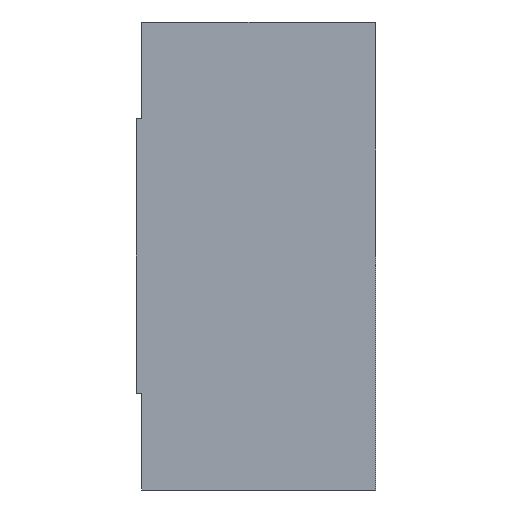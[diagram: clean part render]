
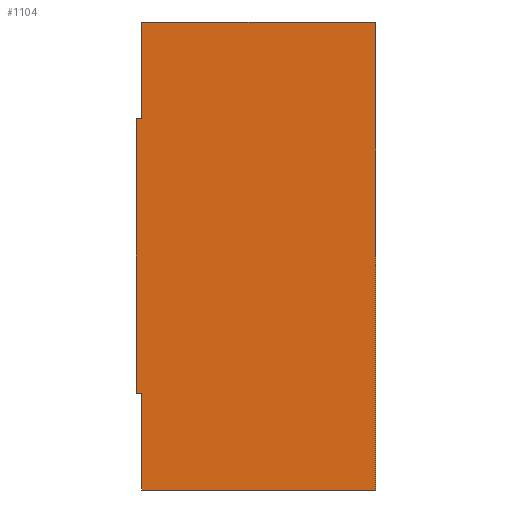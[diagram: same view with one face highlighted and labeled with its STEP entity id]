
A CAD part, left-side view. The second image highlights one B-rep face of the part: STEP entity #1104.
In plain terms, the highlighted planar face has unit normal (-1, 0, 0).
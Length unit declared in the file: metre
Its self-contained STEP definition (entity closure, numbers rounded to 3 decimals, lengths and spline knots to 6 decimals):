
#216=ORIENTED_EDGE('',*,*,#392,.T.);
#217=ORIENTED_EDGE('',*,*,#446,.F.);
#218=ORIENTED_EDGE('',*,*,#440,.T.);
#219=ORIENTED_EDGE('',*,*,#436,.T.);
#220=ORIENTED_EDGE('',*,*,#445,.F.);
#221=ORIENTED_EDGE('',*,*,#447,.T.);
#222=ORIENTED_EDGE('',*,*,#395,.F.);
#223=ORIENTED_EDGE('',*,*,#448,.F.);
#392=EDGE_CURVE('',#519,#521,#640,.T.);
#395=EDGE_CURVE('',#524,#525,#643,.T.);
#436=EDGE_CURVE('',#555,#556,#675,.T.);
#440=EDGE_CURVE('',#559,#555,#679,.T.);
#445=EDGE_CURVE('',#562,#556,#684,.T.);
#446=EDGE_CURVE('',#559,#521,#685,.T.);
#447=EDGE_CURVE('',#562,#525,#686,.T.);
#448=EDGE_CURVE('',#519,#524,#687,.T.);
#519=VERTEX_POINT('',#1655);
#521=VERTEX_POINT('',#1659);
#524=VERTEX_POINT('',#1666);
#525=VERTEX_POINT('',#1668);
#555=VERTEX_POINT('',#1755);
#556=VERTEX_POINT('',#1756);
#559=VERTEX_POINT('',#1764);
#562=VERTEX_POINT('',#1772);
#640=LINE('',#1660,#714);
#643=LINE('',#1667,#717);
#675=LINE('',#1754,#749);
#679=LINE('',#1763,#753);
#684=LINE('',#1773,#758);
#685=LINE('',#1775,#759);
#686=LINE('',#1776,#760);
#687=LINE('',#1777,#761);
#714=VECTOR('',#1316,1.);
#717=VECTOR('',#1321,1.);
#749=VECTOR('',#1403,1.);
#753=VECTOR('',#1409,1.);
#758=VECTOR('',#1416,1.);
#759=VECTOR('',#1419,1.);
#760=VECTOR('',#1420,1.);
#761=VECTOR('',#1421,1.);
#810=EDGE_LOOP('',(#216,#217,#218,#219,#220,#221,#222,#223));
#934=FACE_BOUND('',#810,.T.);
#1071=PLANE('',#1205);
#1104=ADVANCED_FACE('',(#934),#1071,.F.);
#1205=AXIS2_PLACEMENT_3D('',#1774,#1417,#1418);
#1316=DIRECTION('',(0.,-1.,0.));
#1321=DIRECTION('',(0.,-1.,0.));
#1403=DIRECTION('',(0.,0.,1.));
#1409=DIRECTION('',(0.,-1.,0.));
#1416=DIRECTION('',(0.,-1.,0.));
#1417=DIRECTION('',(1.,0.,0.));
#1418=DIRECTION('',(0.,0.,-1.));
#1419=DIRECTION('',(0.,0.,1.));
#1420=DIRECTION('',(0.,0.,-1.));
#1421=DIRECTION('',(0.,0.,1.));
#1655=CARTESIAN_POINT('',(0.,0.0235,-0.0365));
#1659=CARTESIAN_POINT('',(0.,0.023,-0.0365));
#1660=CARTESIAN_POINT('',(0.,0.0235,-0.0365));
#1666=CARTESIAN_POINT('',(0.,0.0235,-0.0095));
#1667=CARTESIAN_POINT('',(0.,0.0235,-0.0095));
#1668=CARTESIAN_POINT('',(0.,0.023,-0.0095));
#1754=CARTESIAN_POINT('',(0.,0.,0.));
#1755=CARTESIAN_POINT('',(0.,0.,-0.046));
#1756=CARTESIAN_POINT('',(0.,0.,0.));
#1763=CARTESIAN_POINT('',(0.,0.0235,-0.046));
#1764=CARTESIAN_POINT('',(0.,0.023,-0.046));
#1772=CARTESIAN_POINT('',(0.,0.023,0.));
#1773=CARTESIAN_POINT('',(0.,0.0235,0.));
#1774=CARTESIAN_POINT('',(0.,0.0235,0.));
#1775=CARTESIAN_POINT('',(0.,0.023,-0.046));
#1776=CARTESIAN_POINT('',(0.,0.023,0.));
#1777=CARTESIAN_POINT('',(0.,0.0235,0.));
